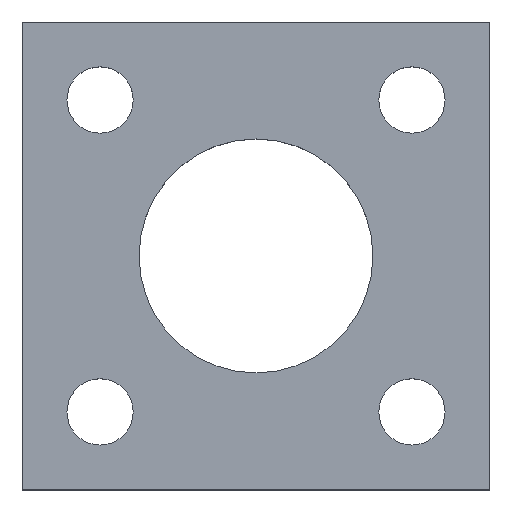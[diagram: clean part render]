
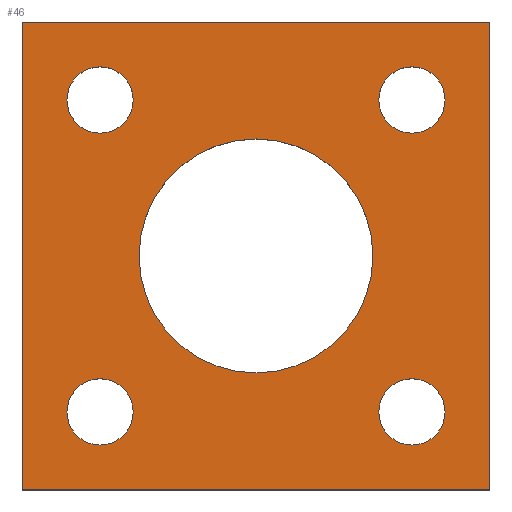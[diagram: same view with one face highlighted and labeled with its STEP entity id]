
A CAD part, top view. The second image highlights one B-rep face of the part: STEP entity #46.
In plain terms, the highlighted planar face has unit normal (0, 0, 1).
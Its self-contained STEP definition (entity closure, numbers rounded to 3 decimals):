
#3 = CIRCLE ( 'NONE', #550, 4.25 ) ;
#11 = DIRECTION ( 'NONE',  ( 0., 0., 1. ) ) ;
#13 = AXIS2_PLACEMENT_3D ( 'NONE', #276, #11, #320 ) ;
#16 = CARTESIAN_POINT ( 'NONE',  ( -30., -30., 0. ) ) ;
#18 = ORIENTED_EDGE ( 'NONE', *, *, #437, .T. ) ;
#20 = LINE ( 'NONE', #188, #470 ) ;
#24 = DIRECTION ( 'NONE',  ( 0., 0., 1. ) ) ;
#25 = AXIS2_PLACEMENT_3D ( 'NONE', #548, #473, #402 ) ;
#27 = CIRCLE ( 'NONE', #477, 15. ) ;
#42 = VECTOR ( 'NONE', #371, 1000. ) ;
#46 = ADVANCED_FACE ( 'NONE', ( #463, #143, #348, #234, #487, #120 ), #140, .T. ) ;
#47 = CARTESIAN_POINT ( 'NONE',  ( 30., -30., 0. ) ) ;
#50 = EDGE_CURVE ( 'NONE', #52, #301, #569, .T. ) ;
#52 = VERTEX_POINT ( 'NONE', #565 ) ;
#57 = VERTEX_POINT ( 'NONE', #273 ) ;
#61 = EDGE_LOOP ( 'NONE', ( #18, #149, #296, #159 ) ) ;
#68 = CIRCLE ( 'NONE', #253, 4.25 ) ;
#71 = CARTESIAN_POINT ( 'NONE',  ( -30., -30., 0. ) ) ;
#74 = CARTESIAN_POINT ( 'NONE',  ( -24.25, 20., 0. ) ) ;
#75 = CARTESIAN_POINT ( 'NONE',  ( 0., 0., 0. ) ) ;
#76 = AXIS2_PLACEMENT_3D ( 'NONE', #108, #404, #150 ) ;
#77 = DIRECTION ( 'NONE',  ( 0., 0., 1. ) ) ;
#86 = VERTEX_POINT ( 'NONE', #446 ) ;
#92 = VERTEX_POINT ( 'NONE', #47 ) ;
#95 = EDGE_CURVE ( 'NONE', #166, #436, #322, .T. ) ;
#103 = CARTESIAN_POINT ( 'NONE',  ( 20., -20., 0. ) ) ;
#105 = AXIS2_PLACEMENT_3D ( 'NONE', #238, #540, #279 ) ;
#108 = CARTESIAN_POINT ( 'NONE',  ( 20., 20., 0. ) ) ;
#113 = CIRCLE ( 'NONE', #76, 4.25 ) ;
#117 = CARTESIAN_POINT ( 'NONE',  ( 0., 0., 0. ) ) ;
#120 = FACE_OUTER_BOUND ( 'NONE', #61, .T. ) ;
#121 = DIRECTION ( 'NONE',  ( -1., 0., 0. ) ) ;
#140 = PLANE ( 'NONE',  #25 ) ;
#141 = AXIS2_PLACEMENT_3D ( 'NONE', #172, #230, #458 ) ;
#143 = FACE_BOUND ( 'NONE', #372, .T. ) ;
#144 = CARTESIAN_POINT ( 'NONE',  ( -15.75, -20., 0. ) ) ;
#145 = ORIENTED_EDGE ( 'NONE', *, *, #514, .F. ) ;
#147 = DIRECTION ( 'NONE',  ( -1., 0., 0. ) ) ;
#149 = ORIENTED_EDGE ( 'NONE', *, *, #482, .T. ) ;
#150 = DIRECTION ( 'NONE',  ( -1., 0., 0. ) ) ;
#158 = DIRECTION ( 'NONE',  ( -1., 0., 0. ) ) ;
#159 = ORIENTED_EDGE ( 'NONE', *, *, #414, .T. ) ;
#166 = VERTEX_POINT ( 'NONE', #74 ) ;
#172 = CARTESIAN_POINT ( 'NONE',  ( -20., 20., 0. ) ) ;
#173 = VECTOR ( 'NONE', #500, 1000. ) ;
#180 = VERTEX_POINT ( 'NONE', #205 ) ;
#188 = CARTESIAN_POINT ( 'NONE',  ( 30., 30., 0. ) ) ;
#190 = AXIS2_PLACEMENT_3D ( 'NONE', #197, #501, #245 ) ;
#196 = ORIENTED_EDGE ( 'NONE', *, *, #426, .F. ) ;
#197 = CARTESIAN_POINT ( 'NONE',  ( 20., -20., 0. ) ) ;
#205 = CARTESIAN_POINT ( 'NONE',  ( 30., 30., 0. ) ) ;
#222 = EDGE_LOOP ( 'NONE', ( #196, #464 ) ) ;
#230 = DIRECTION ( 'NONE',  ( 0., 0., 1. ) ) ;
#232 = DIRECTION ( 'NONE',  ( 0., 1., 0. ) ) ;
#234 = FACE_BOUND ( 'NONE', #530, .T. ) ;
#238 = CARTESIAN_POINT ( 'NONE',  ( 20., 20., 0. ) ) ;
#241 = CIRCLE ( 'NONE', #13, 4.25 ) ;
#243 = VERTEX_POINT ( 'NONE', #316 ) ;
#245 = DIRECTION ( 'NONE',  ( -1., 0., 0. ) ) ;
#246 = EDGE_CURVE ( 'NONE', #92, #180, #20, .T. ) ;
#248 = VECTOR ( 'NONE', #505, 1000. ) ;
#253 = AXIS2_PLACEMENT_3D ( 'NONE', #287, #24, #331 ) ;
#271 = DIRECTION ( 'NONE',  ( -1., 0., 0. ) ) ;
#272 = LINE ( 'NONE', #370, #42 ) ;
#273 = CARTESIAN_POINT ( 'NONE',  ( 15., 0., 0. ) ) ;
#274 = ORIENTED_EDGE ( 'NONE', *, *, #283, .F. ) ;
#276 = CARTESIAN_POINT ( 'NONE',  ( -20., 20., 0. ) ) ;
#277 = CARTESIAN_POINT ( 'NONE',  ( 24.25, 20., 0. ) ) ;
#278 = AXIS2_PLACEMENT_3D ( 'NONE', #117, #416, #158 ) ;
#279 = DIRECTION ( 'NONE',  ( -1., 0., 0. ) ) ;
#283 = EDGE_CURVE ( 'NONE', #436, #166, #241, .T. ) ;
#284 = CARTESIAN_POINT ( 'NONE',  ( 30., 30., 0. ) ) ;
#285 = CARTESIAN_POINT ( 'NONE',  ( -15.75, 20., 0. ) ) ;
#286 = CIRCLE ( 'NONE', #190, 4.25 ) ;
#287 = CARTESIAN_POINT ( 'NONE',  ( -20., -20., 0. ) ) ;
#296 = ORIENTED_EDGE ( 'NONE', *, *, #246, .T. ) ;
#299 = EDGE_CURVE ( 'NONE', #86, #243, #3, .T. ) ;
#301 = VERTEX_POINT ( 'NONE', #144 ) ;
#316 = CARTESIAN_POINT ( 'NONE',  ( 24.25, -20., 0. ) ) ;
#320 = DIRECTION ( 'NONE',  ( -1., 0., 0. ) ) ;
#322 = CIRCLE ( 'NONE', #141, 4.25 ) ;
#324 = ORIENTED_EDGE ( 'NONE', *, *, #342, .F. ) ;
#328 = CIRCLE ( 'NONE', #105, 4.25 ) ;
#329 = EDGE_LOOP ( 'NONE', ( #274, #511 ) ) ;
#331 = DIRECTION ( 'NONE',  ( -1., 0., 0. ) ) ;
#342 = EDGE_CURVE ( 'NONE', #358, #478, #113, .T. ) ;
#348 = FACE_BOUND ( 'NONE', #222, .T. ) ;
#351 = EDGE_CURVE ( 'NONE', #478, #358, #328, .T. ) ;
#358 = VERTEX_POINT ( 'NONE', #277 ) ;
#360 = LINE ( 'NONE', #71, #248 ) ;
#362 = VERTEX_POINT ( 'NONE', #16 ) ;
#369 = ORIENTED_EDGE ( 'NONE', *, *, #467, .F. ) ;
#370 = CARTESIAN_POINT ( 'NONE',  ( -30., 30., 0. ) ) ;
#371 = DIRECTION ( 'NONE',  ( 0., -1., 0. ) ) ;
#372 = EDGE_LOOP ( 'NONE', ( #324, #518 ) ) ;
#378 = DIRECTION ( 'NONE',  ( 0., 0., 1. ) ) ;
#397 = ORIENTED_EDGE ( 'NONE', *, *, #50, .F. ) ;
#399 = LINE ( 'NONE', #284, #173 ) ;
#402 = DIRECTION ( 'NONE',  ( 1., 0., 0. ) ) ;
#403 = DIRECTION ( 'NONE',  ( 0., 0., 1. ) ) ;
#404 = DIRECTION ( 'NONE',  ( 0., 0., 1. ) ) ;
#414 = EDGE_CURVE ( 'NONE', #180, #481, #399, .T. ) ;
#416 = DIRECTION ( 'NONE',  ( 0., 0., 1. ) ) ;
#426 = EDGE_CURVE ( 'NONE', #243, #86, #286, .T. ) ;
#436 = VERTEX_POINT ( 'NONE', #285 ) ;
#437 = EDGE_CURVE ( 'NONE', #481, #362, #272, .T. ) ;
#446 = CARTESIAN_POINT ( 'NONE',  ( 15.75, -20., 0. ) ) ;
#453 = EDGE_CURVE ( 'NONE', #301, #52, #68, .T. ) ;
#457 = CARTESIAN_POINT ( 'NONE',  ( 15.75, 20., 0. ) ) ;
#458 = DIRECTION ( 'NONE',  ( -1., 0., 0. ) ) ;
#459 = CARTESIAN_POINT ( 'NONE',  ( -30., 30., 0. ) ) ;
#463 = FACE_BOUND ( 'NONE', #329, .T. ) ;
#464 = ORIENTED_EDGE ( 'NONE', *, *, #299, .F. ) ;
#467 = EDGE_CURVE ( 'NONE', #476, #57, #486, .T. ) ;
#470 = VECTOR ( 'NONE', #232, 1000. ) ;
#473 = DIRECTION ( 'NONE',  ( 0., 0., 1. ) ) ;
#476 = VERTEX_POINT ( 'NONE', #547 ) ;
#477 = AXIS2_PLACEMENT_3D ( 'NONE', #75, #378, #121 ) ;
#478 = VERTEX_POINT ( 'NONE', #457 ) ;
#481 = VERTEX_POINT ( 'NONE', #459 ) ;
#482 = EDGE_CURVE ( 'NONE', #362, #92, #360, .T. ) ;
#486 = CIRCLE ( 'NONE', #278, 15. ) ;
#487 = FACE_BOUND ( 'NONE', #539, .T. ) ;
#500 = DIRECTION ( 'NONE',  ( -1., 0., 0. ) ) ;
#501 = DIRECTION ( 'NONE',  ( 0., 0., 1. ) ) ;
#505 = DIRECTION ( 'NONE',  ( 1., 0., 0. ) ) ;
#511 = ORIENTED_EDGE ( 'NONE', *, *, #95, .F. ) ;
#514 = EDGE_CURVE ( 'NONE', #57, #476, #27, .T. ) ;
#518 = ORIENTED_EDGE ( 'NONE', *, *, #351, .F. ) ;
#530 = EDGE_LOOP ( 'NONE', ( #564, #397 ) ) ;
#539 = EDGE_LOOP ( 'NONE', ( #145, #369 ) ) ;
#540 = DIRECTION ( 'NONE',  ( 0., 0., 1. ) ) ;
#547 = CARTESIAN_POINT ( 'NONE',  ( -15., 0., 0. ) ) ;
#548 = CARTESIAN_POINT ( 'NONE',  ( 0., 0., 0. ) ) ;
#550 = AXIS2_PLACEMENT_3D ( 'NONE', #103, #403, #147 ) ;
#560 = CARTESIAN_POINT ( 'NONE',  ( -20., -20., 0. ) ) ;
#564 = ORIENTED_EDGE ( 'NONE', *, *, #453, .F. ) ;
#565 = CARTESIAN_POINT ( 'NONE',  ( -24.25, -20., 0. ) ) ;
#566 = AXIS2_PLACEMENT_3D ( 'NONE', #560, #77, #271 ) ;
#569 = CIRCLE ( 'NONE', #566, 4.25 ) ;
